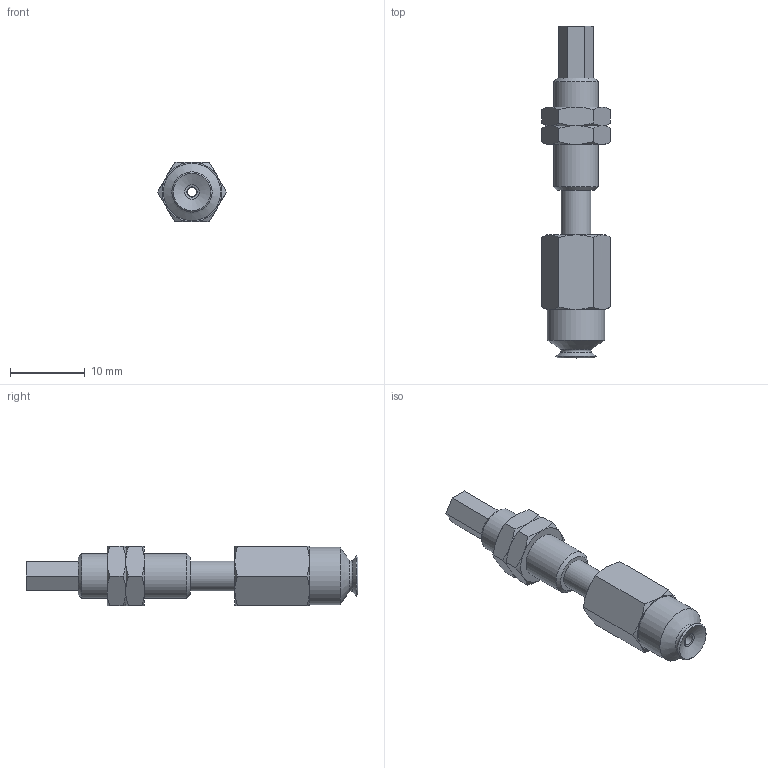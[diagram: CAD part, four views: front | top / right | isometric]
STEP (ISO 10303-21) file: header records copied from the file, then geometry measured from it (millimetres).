
FILE_DESCRIPTION(('STEP AP203'),'1');
FILE_NAME('.stp','2025-08-27T05:31:33',(' '),(' '),'Spatial InterOp 3D',' ',' ');
FILE_SCHEMA(('CONFIG_CONTROL_DESIGN'));
Length unit declared in the file: millimetre
Products named in the file (6): BNABPFTS-5A-6-※; ADAPTER; NAPCTS-7-6-MBODY; Nut-5A-6-s; NAPFTS-5A-6-FBODY; BPFG-5A-※
Assembly tree (6 placements, depth 2):
  BNABPFTS-5A-6-※
    ADAPTER
    NAPCTS-7-6-MBODY
    Nut-5A-6-s  x2
    NAPFTS-5A-6-FBODY
    BPFG-5A-※
Bounding box: 9.24 x 44.5 x 8 mm (x, y, z)
Volume: 1484.3 mm3; surface area: 2168.2 mm2
Topology: 6 solids, 6 shells, 116 faces, 243 edges, 143 vertices
Faces by surface type: cone 48, plane 46, cylinder 14, torus 7, bspline 1
Full cylindrical faces by diameter (mm): 1.2 x2, 1.4 x1, 2.459 x1, 4 x4, 5.188 x2, 6 x3, 7.7 x1
Entity records: 2741 total; most frequent: CARTESIAN_POINT 657, DIRECTION 378, ORIENTED_EDGE 314, AXIS2_PLACEMENT_3D 171, EDGE_CURVE 157, EDGE_LOOP 137, FACE_OUTER_BOUND 114, VERTEX_POINT 108
